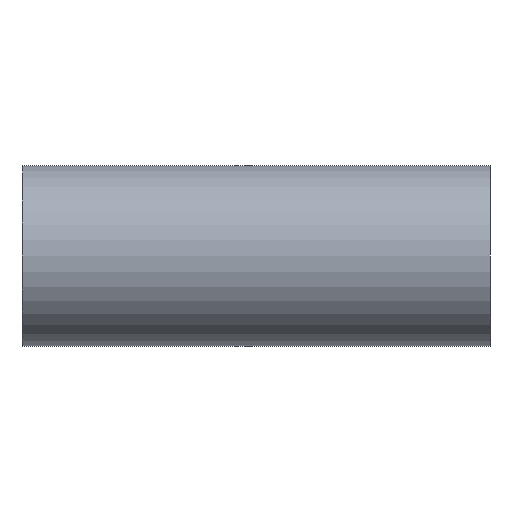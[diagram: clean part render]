
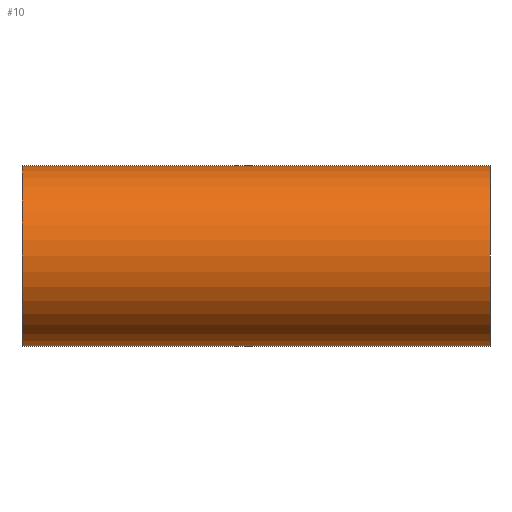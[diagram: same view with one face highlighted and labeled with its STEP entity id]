
A CAD part, front view. The second image highlights one B-rep face of the part: STEP entity #10.
In plain terms, the highlighted cylindrical face has radius 31.75 mm (diameter 63.5 mm), a partial arc.
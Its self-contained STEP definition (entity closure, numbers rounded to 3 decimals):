
#10 = ADVANCED_FACE ( 'NONE', ( #420 ), #256, .T. ) ;
#11 = DIRECTION ( 'NONE',  ( 0., 0., 1. ) ) ;
#13 = DIRECTION ( 'NONE',  ( -1., 0., 0. ) ) ;
#17 = CARTESIAN_POINT ( 'NONE',  ( 82.1, 0., 0. ) ) ;
#25 = VERTEX_POINT ( 'NONE', #494 ) ;
#88 = CIRCLE ( 'NONE', #441, 31.75 ) ;
#92 = VERTEX_POINT ( 'NONE', #217 ) ;
#157 = ORIENTED_EDGE ( 'NONE', *, *, #311, .T. ) ;
#174 = CARTESIAN_POINT ( 'NONE',  ( -82.1, 0., -31.75 ) ) ;
#179 = CARTESIAN_POINT ( 'NONE',  ( 171.903, 0., 31.75 ) ) ;
#183 = DIRECTION ( 'NONE',  ( -1., 0., 0. ) ) ;
#198 = AXIS2_PLACEMENT_3D ( 'NONE', #598, #454, #231 ) ;
#217 = CARTESIAN_POINT ( 'NONE',  ( -82.1, 0., 31.75 ) ) ;
#231 = DIRECTION ( 'NONE',  ( 0., 0., 1. ) ) ;
#256 = CYLINDRICAL_SURFACE ( 'NONE', #198, 31.75 ) ;
#259 = CIRCLE ( 'NONE', #520, 31.75 ) ;
#260 = VECTOR ( 'NONE', #183, 1000. ) ;
#304 = EDGE_LOOP ( 'NONE', ( #578, #325, #589, #157 ) ) ;
#311 = EDGE_CURVE ( 'NONE', #92, #470, #259, .T. ) ;
#325 = ORIENTED_EDGE ( 'NONE', *, *, #480, .T. ) ;
#330 = LINE ( 'NONE', #371, #509 ) ;
#338 = LINE ( 'NONE', #179, #260 ) ;
#370 = DIRECTION ( 'NONE',  ( -1., 0., 0. ) ) ;
#371 = CARTESIAN_POINT ( 'NONE',  ( 171.903, 0., -31.75 ) ) ;
#386 = EDGE_CURVE ( 'NONE', #25, #470, #330, .T. ) ;
#420 = FACE_OUTER_BOUND ( 'NONE', #304, .T. ) ;
#433 = DIRECTION ( 'NONE',  ( 0., 0., 1. ) ) ;
#436 = DIRECTION ( 'NONE',  ( 1., 0., 0. ) ) ;
#438 = CARTESIAN_POINT ( 'NONE',  ( -82.1, 0., 0. ) ) ;
#441 = AXIS2_PLACEMENT_3D ( 'NONE', #17, #13, #11 ) ;
#454 = DIRECTION ( 'NONE',  ( -1., 0., 0. ) ) ;
#470 = VERTEX_POINT ( 'NONE', #174 ) ;
#480 = EDGE_CURVE ( 'NONE', #25, #617, #88, .T. ) ;
#490 = EDGE_CURVE ( 'NONE', #617, #92, #338, .T. ) ;
#494 = CARTESIAN_POINT ( 'NONE',  ( 82.1, 0., -31.75 ) ) ;
#497 = CARTESIAN_POINT ( 'NONE',  ( 82.1, 0., 31.75 ) ) ;
#509 = VECTOR ( 'NONE', #370, 1000. ) ;
#520 = AXIS2_PLACEMENT_3D ( 'NONE', #438, #436, #433 ) ;
#578 = ORIENTED_EDGE ( 'NONE', *, *, #386, .F. ) ;
#589 = ORIENTED_EDGE ( 'NONE', *, *, #490, .T. ) ;
#598 = CARTESIAN_POINT ( 'NONE',  ( 171.903, 0., 0. ) ) ;
#617 = VERTEX_POINT ( 'NONE', #497 ) ;
